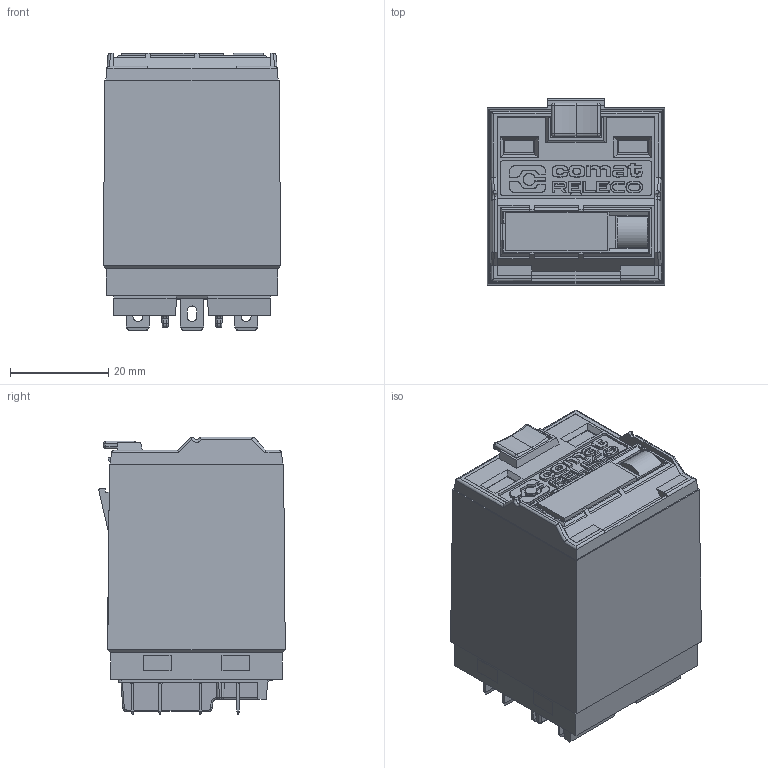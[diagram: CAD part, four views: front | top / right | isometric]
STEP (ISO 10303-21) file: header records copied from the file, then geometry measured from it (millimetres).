
FILE_DESCRIPTION (( 'STEP AP214' ), '1' );
FILE_NAME ('C5.STEP', '2024-03-26T09:22:29', ( '' ), ( '' ), 'SwSTEP 2.0', 'SolidWorks 2022', '' );
FILE_SCHEMA (( 'AUTOMOTIVE_DESIGN' ));
Length unit declared in the file: millimetre
Products named in the file (1): C5
Bounding box: 36.21 x 38.06 x 56.7 mm (x, y, z)
Volume: 61636.1 mm3; surface area: 12364.7 mm2
Topology: 1 solids, 4 shells, 1080 faces, 2762 edges, 1731 vertices
Faces by surface type: plane 678, cylinder 227, bspline 155, torus 8, sphere 6, cone 6
Entity records: 45465 total; most frequent: CARTESIAN_POINT 11231, ORIENTED_EDGE 5512, DIRECTION 4508, EDGE_CURVE 2756, VECTOR 2060, LINE 2060, VERTEX_POINT 1731, AXIS2_PLACEMENT_3D 1224
